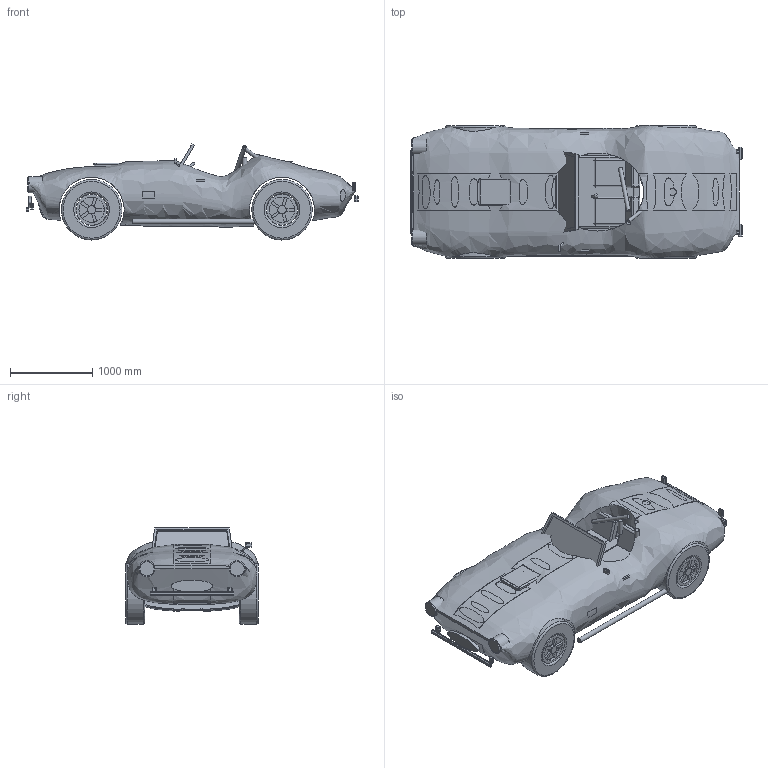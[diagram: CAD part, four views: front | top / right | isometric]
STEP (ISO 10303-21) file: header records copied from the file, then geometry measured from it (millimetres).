
FILE_DESCRIPTION(('Open CASCADE Model'),'2;1');
FILE_NAME('Open CASCADE Shape Model','2026-11-04T14:59:55',('Author'),( 'Open CASCADE'),'Open CASCADE STEP processor 7.9','Open CASCADE 7.9' ,'Unknown');
FILE_SCHEMA(('AUTOMOTIVE_DESIGN { 1 0 10303 214 1 1 1 1 }'));
Length unit declared in the file: millimetre
Products named in the file (45): AETHER_CAD_ASSEMBLY; p00_body; p01_front_left_tyre; p02_front_left_rim; p03_front_left_brake; p04_front_right_tyre; p05_front_right_rim; p06_front_right_brake; p07_rear_left_tyre; p08_rear_left_rim; p09_rear_left_brake; p10_rear_right_tyre; p11_rear_right_rim; p12_rear_right_brake; p13_cockpit_floor; p14_dashboard; p15_seat_left; p16_seat_right; p17_steering_wheel; p18_gear_lever; p19_windscreen_frame; p20_windscreen_glass; p21_roll_bar; p22_bonnet_scoop; p23_bonnet_scoop_intake; p24_fuel_cap; p25_grille; p26_headlight_bucket_left; p27_headlight_left; p28_front_indicator_left; p29_tail_light_left; p30_side_vent_left; p31_door_handle_left; p32_headlight_bucket_right; p33_headlight_right; p34_front_indicator_right; p35_tail_light_right; p36_side_vent_right; p37_door_handle_right; p38_mirror_left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
Assembly tree (44 placements, depth 2):
  AETHER_CAD_ASSEMBLY
    p00_body
    p01_front_left_tyre
    p02_front_left_rim
    p03_front_left_brake
    p04_front_right_tyre
    p05_front_right_rim
    p06_front_right_brake
    p07_rear_left_tyre
    p08_rear_left_rim
    p09_rear_left_brake
    p10_rear_right_tyre
    p11_rear_right_rim
    p12_rear_right_brake
    p13_cockpit_floor
    p14_dashboard
    p15_seat_left
    p16_seat_right
    p17_steering_wheel
    p18_gear_lever
    p19_windscreen_frame
    p20_windscreen_glass
    p21_roll_bar
    p22_bonnet_scoop
    p23_bonnet_scoop_intake
    p24_fuel_cap
    p25_grille
    p26_headlight_bucket_left
    p27_headlight_left
    p28_front_indicator_left
    p29_tail_light_left
    p30_side_vent_left
    p31_door_handle_left
    p32_headlight_bucket_right
    p33_headlight_right
    p34_front_indicator_right
    p35_tail_light_right
    p36_side_vent_right
    p37_door_handle_right
    p38_mirror_left
    p39_front_bumper
    p40_rear_overrider_left
    p41_rear_overrider_right
    p42_side_exhaust_left
    p43_side_exhaust_right
Bounding box: 4040 x 1618.99 x 1168.35 mm (x, y, z)
Volume: 2768225955.6 mm3; surface area: 32385790 mm2
Topology: 53 solids, 53 shells, 737 faces, 1555 edges, 843 vertices
Faces by surface type: plane 340, cylinder 220, sphere 121, extrusion 23, torus 17, bspline 16
Full cylindrical faces by diameter (mm): 18 x1, 20 x1, 32 x1, 42 x1, 46 x1, 56 x2, 60 x2, 68 x2, 92 x1, 100 x4, 172 x2, 196 x2, 308 x4, 320 x4, 376 x4, 390 x4, 736 x4
Entity records: 721768 total; most frequent: CARTESIAN_POINT 690718, DIRECTION 5742, VECTOR 3019, LINE 2996, ORIENTED_EDGE 2878, PCURVE 2878, DEFINITIONAL_REPRESENTATION 2878, EDGE_CURVE 1439
